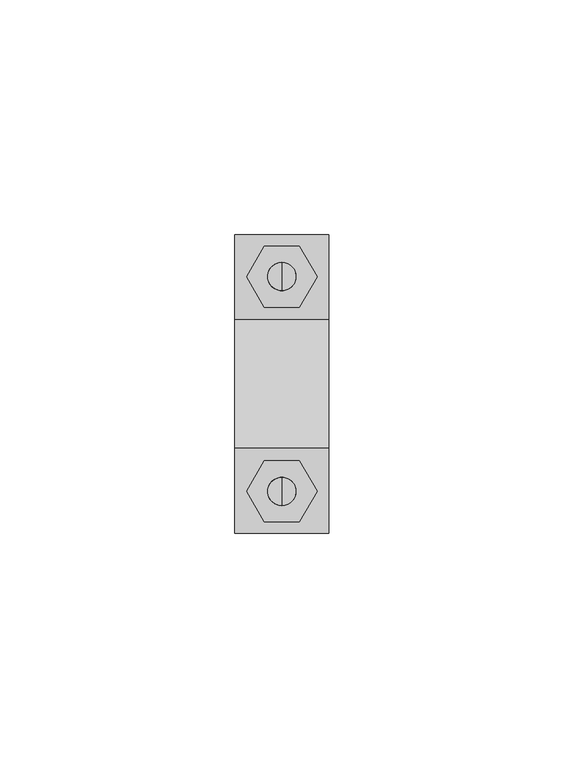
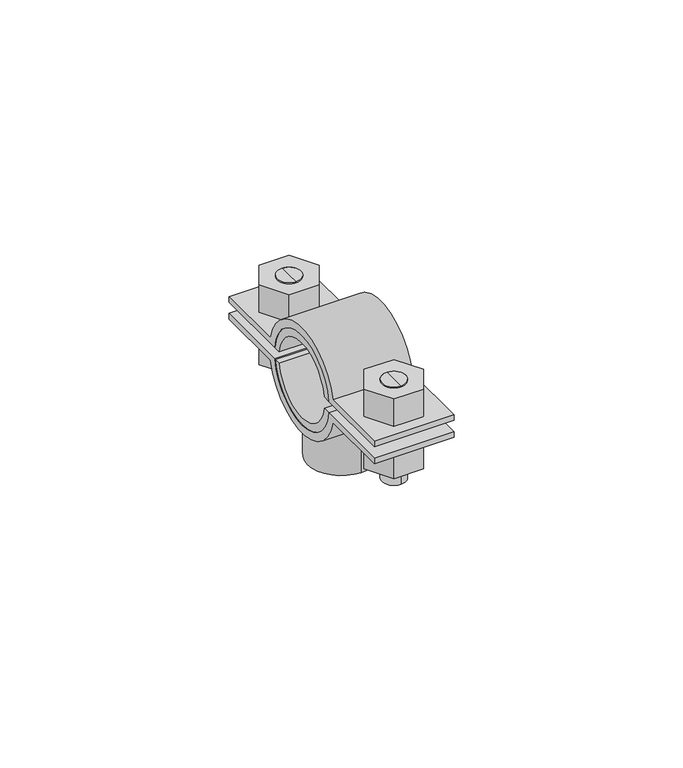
"""IFC4 building model written with IfcOpenShell, lengths in millimetres: valve geometry, Superfix DG2 Clamp (based on pipe) : Superfix DG2 Clamp (based on pipe)."""

from ifc_helpers import new_model, si_unit, point, frame, frame_2d, origin, origin_2d, place, context, project, spatial, polyline, circle_curve, trimmed, segment, composite_curve, outline, extrude, source, transform, mapped, element, save
from ifc_brep_helpers import plane_surface, cylinder_surface, advanced_brep


def valve_8481dcae(model_context):
    return source(origin(), model_context, "Body", "SolidModel", [
        advanced_brep(
        [(0.0, 25.875, 342.9002332), (0.0, 19.875, 342.9002332), (0.0, 19.875, 357.0002332), (0.0, 25.875, 357.0002332), (0.0, 22.875, 342.9002332)],
        [
            (0, 1, circle_curve(frame((0.0, 22.875, 342.9002332), z_axis=(0.0, 0.0, 1.0), x_axis=(0.0, 1.0, 0.0)), 3.0)),
            (1, 2),
            (2, 3, circle_curve(frame((0.0, 22.875, 357.0002332), z_axis=(0.0, 0.0, -1.0), x_axis=(0.0, 1.0, 0.0)), 3.0)),
            (3, 0),
            (1, 0, circle_curve(frame((0.0, 22.875, 342.9002332), z_axis=(0.0, 0.0, 1.0), x_axis=(0.0, 1.0, 0.0)), 3.0)),
            (3, 2, circle_curve(frame((0.0, 22.875, 357.0002332), z_axis=(0.0, 0.0, -1.0), x_axis=(0.0, 1.0, 0.0)), 3.0)),
            (0, 4),
            (4, 1),
        ],
        [
            cylinder_surface(frame((0.0, 22.875, 356.7808426), z_axis=(0.0, 0.0, 1.0), x_axis=(0.0, 1.0, 0.0)), 3.0),
            plane_surface(frame((0.0, 22.875, 342.9002332), z_axis=(0.0, 0.0, -1.0), x_axis=(0.0, 1.0, 0.0))),
            plane_surface(frame((13.75, -31.75, 357.0002332), z_axis=(0.0, 0.0, 1.0), x_axis=(-1.0, 0.0, 0.0))),
        ],
        [
            (0, [[1, 2, 3, 4]]),
            (0, [[5, -4, 6, -2]]),
            (1, [[-1, 7, 8]]),
            (1, [[-5, -8, -7]]),
            (2, [[-3, -6]]),
        ],
    ),
        advanced_brep(
        [(0.0, 19.875, 369.1002332), (0.0, 25.875, 369.1002332), (0.0, 25.875, 360.0002332), (0.0, 19.875, 360.0002332), (0.0, 22.875, 369.1002332)],
        [
            (0, 1, circle_curve(frame((0.0, 22.875, 369.1002332), z_axis=(0.0, 0.0, -1.0), x_axis=(0.0, 1.0, 0.0)), 3.0)),
            (1, 2),
            (2, 3, circle_curve(frame((0.0, 22.875, 360.0002332), z_axis=(0.0, 0.0, 1.0), x_axis=(0.0, 1.0, 0.0)), 3.0)),
            (3, 0),
            (1, 0, circle_curve(frame((0.0, 22.875, 369.1002332), z_axis=(0.0, 0.0, -1.0), x_axis=(0.0, 1.0, 0.0)), 3.0)),
            (3, 2, circle_curve(frame((0.0, 22.875, 360.0002332), z_axis=(0.0, 0.0, 1.0), x_axis=(0.0, 1.0, 0.0)), 3.0)),
            (0, 4),
            (4, 1),
        ],
        [
            cylinder_surface(frame((0.0, 22.875, 356.7808426), z_axis=(0.0, 0.0, 1.0), x_axis=(0.0, 1.0, 0.0)), 3.0),
            plane_surface(frame((0.0, 22.875, 369.1002332), z_axis=(0.0, 0.0, 1.0), x_axis=(0.0, 1.0, 0.0))),
            plane_surface(frame((13.75, 31.75, 360.0002332), z_axis=(0.0, 0.0, -1.0), x_axis=(-1.0, 0.0, 0.0))),
        ],
        [
            (0, [[1, 2, 3, 4]]),
            (0, [[5, -4, 6, -2]]),
            (1, [[-1, 7, 8]]),
            (1, [[-5, -8, -7]]),
            (2, [[-3, -6]]),
        ],
    ),
        advanced_brep(
        [(0.0, -25.875, 369.1002332), (0.0, -19.875, 369.1002332), (0.0, -19.875, 360.0002332), (0.0, -25.875, 360.0002332), (0.0, -22.875, 369.1002332)],
        [
            (0, 1, circle_curve(frame((0.0, -22.875, 369.1002332), z_axis=(0.0, 0.0, -1.0), x_axis=(0.0, -1.0, 0.0)), 3.0)),
            (1, 2),
            (2, 3, circle_curve(frame((0.0, -22.875, 360.0002332), z_axis=(0.0, 0.0, 1.0), x_axis=(0.0, -1.0, 0.0)), 3.0)),
            (3, 0),
            (1, 0, circle_curve(frame((0.0, -22.875, 369.1002332), z_axis=(0.0, 0.0, -1.0), x_axis=(0.0, -1.0, 0.0)), 3.0)),
            (3, 2, circle_curve(frame((0.0, -22.875, 360.0002332), z_axis=(0.0, 0.0, 1.0), x_axis=(0.0, -1.0, 0.0)), 3.0)),
            (0, 4),
            (4, 1),
        ],
        [
            cylinder_surface(frame((0.0, -22.875, 356.7808426), z_axis=(0.0, 0.0, -1.0), x_axis=(0.0, -1.0, 0.0)), 3.0),
            plane_surface(frame((0.0, -22.875, 369.1002332), z_axis=(0.0, 0.0, 1.0), x_axis=(0.0, -1.0, 0.0))),
            plane_surface(frame((13.75, 31.75, 360.0002332), z_axis=(0.0, 0.0, -1.0), x_axis=(-1.0, 0.0, 0.0))),
        ],
        [
            (0, [[1, 2, 3, 4]]),
            (0, [[5, -4, 6, -2]]),
            (1, [[-1, 7, 8]]),
            (1, [[-5, -8, -7]]),
            (2, [[-3, -6]]),
        ],
    ),
        advanced_brep(
        [(0.0, -19.875, 342.9002332), (0.0, -25.875, 342.9002332), (0.0, -25.875, 357.0002332), (0.0, -19.875, 357.0002332), (0.0, -22.875, 342.9002332)],
        [
            (0, 1, circle_curve(frame((0.0, -22.875, 342.9002332), z_axis=(0.0, 0.0, 1.0), x_axis=(0.0, -1.0, 0.0)), 3.0)),
            (1, 2),
            (2, 3, circle_curve(frame((0.0, -22.875, 357.0002332), z_axis=(0.0, 0.0, -1.0), x_axis=(0.0, -1.0, 0.0)), 3.0)),
            (3, 0),
            (1, 0, circle_curve(frame((0.0, -22.875, 342.9002332), z_axis=(0.0, 0.0, 1.0), x_axis=(0.0, -1.0, 0.0)), 3.0)),
            (3, 2, circle_curve(frame((0.0, -22.875, 357.0002332), z_axis=(0.0, 0.0, -1.0), x_axis=(0.0, -1.0, 0.0)), 3.0)),
            (0, 4),
            (4, 1),
        ],
        [
            cylinder_surface(frame((0.0, -22.875, 356.7808426), z_axis=(0.0, 0.0, -1.0), x_axis=(0.0, -1.0, 0.0)), 3.0),
            plane_surface(frame((0.0, -22.875, 342.9002332), z_axis=(0.0, 0.0, -1.0), x_axis=(0.0, -1.0, 0.0))),
            plane_surface(frame((13.75, -31.75, 357.0002332), z_axis=(0.0, 0.0, 1.0), x_axis=(-1.0, 0.0, 0.0))),
        ],
        [
            (0, [[1, 2, 3, 4]]),
            (0, [[5, -4, 6, -2]]),
            (1, [[-1, 7, 8]]),
            (1, [[-5, -8, -7]]),
            (2, [[-3, -6]]),
        ],
    ),
        extrude(outline(composite_curve([segment(trimmed(circle_curve(frame_2d((0.0, 358.5002332)), 12.0), [point((-11.9058809, 357.0002332))], [point((11.9058809, 357.0002332))], True, "CARTESIAN"), True, "CONTINUOUS"), segment(polyline([(11.9058809, 357.0002332), (31.75, 357.0002332), (31.75, 355.5002332), (13.6747943, 355.5002332)]), True, "CONTINUOUS"), segment(trimmed(circle_curve(frame_2d((0.0, 358.5002332)), 14.0), [point((13.6747943, 355.5002332))], [point((-13.6747943, 355.5002332))], False, "CARTESIAN"), True, "CONTINUOUS"), segment(polyline([(-13.6747943, 355.5002332), (-31.75, 355.5002332), (-31.75, 357.0002332), (-11.9058809, 357.0002332)]), True, "CONTINUOUS")], self_intersect=False)), frame((-10.0, 0.0, 0.0), z_axis=(1.0, 0.0, 0.0), x_axis=(0.0, 1.0, 0.0)), (0.0, 0.0, 1.0), 20.0),
        extrude(outline(composite_curve([segment(trimmed(circle_curve(frame_2d((0.0, 358.5002332)), 12.0), [point((11.9058809, 360.0002332))], [point((-11.9058809, 360.0002332))], True, "CARTESIAN"), True, "CONTINUOUS"), segment(polyline([(-11.9058809, 360.0002332), (-31.75, 360.0002332), (-31.75, 361.5002332), (-13.6747943, 361.5002332)]), True, "CONTINUOUS"), segment(trimmed(circle_curve(frame_2d((0.0, 358.5002332)), 14.0), [point((-13.6747943, 361.5002332))], [point((13.6747943, 361.5002332))], False, "CARTESIAN"), True, "CONTINUOUS"), segment(polyline([(13.6747943, 361.5002332), (31.75, 361.5002332), (31.75, 360.0002332), (11.9058809, 360.0002332)]), True, "CONTINUOUS")], self_intersect=False)), frame((-10.0, 0.0, 0.0), z_axis=(1.0, 0.0, 0.0), x_axis=(0.0, 1.0, 0.0)), (0.0, 0.0, 1.0), 20.0),
        extrude(outline(polyline([(7.5055535, -22.875), (3.7527767, -29.375), (-3.7527767, -29.375), (-7.5055535, -22.875), (-3.7527767, -16.375), (3.7527767, -16.375), (7.5055535, -22.875)]), holes=[composite_curve([segment(trimmed(circle_curve(frame_2d((0.0, -22.875)), 3.0), [point((3.0, -22.875))], [point((-3.0, -22.875))], True, "CARTESIAN"), True, "CONTINUOUS"), segment(trimmed(circle_curve(frame_2d((0.0, -22.875)), 3.0), [point((-3.0, -22.875))], [point((3.0, -22.875))], True, "CARTESIAN"), True, "CONTINUOUS")], self_intersect=False)]), frame((0.0, 0.0, 361.5002332), z_axis=(0.0, 0.0, 1.0), x_axis=(1.0, 0.0, 0.0)), (0.0, 0.0, 1.0), 7.6),
        extrude(outline(polyline([(7.5055535, 22.875), (3.7527767, 16.375), (-3.7527767, 16.375), (-7.5055535, 22.875), (-3.7527767, 29.375), (3.7527767, 29.375), (7.5055535, 22.875)]), holes=[composite_curve([segment(trimmed(circle_curve(frame_2d((0.0, 22.875)), 3.0), [point((3.0, 22.875))], [point((-3.0, 22.875))], True, "CARTESIAN"), True, "CONTINUOUS"), segment(trimmed(circle_curve(frame_2d((0.0, 22.875)), 3.0), [point((-3.0, 22.875))], [point((3.0, 22.875))], True, "CARTESIAN"), True, "CONTINUOUS")], self_intersect=False)]), frame((0.0, 0.0, 361.5002332), z_axis=(0.0, 0.0, 1.0), x_axis=(1.0, 0.0, 0.0)), (0.0, 0.0, 1.0), 7.6),
        extrude(outline(polyline([(7.5055535, -22.875), (3.7527767, -29.375), (-3.7527767, -29.375), (-7.5055535, -22.875), (-3.7527767, -16.375), (3.7527767, -16.375), (7.5055535, -22.875)]), holes=[composite_curve([segment(trimmed(circle_curve(frame_2d((0.0, -22.875)), 3.0), [point((3.0, -22.875))], [point((-3.0, -22.875))], True, "CARTESIAN"), True, "CONTINUOUS"), segment(trimmed(circle_curve(frame_2d((0.0, -22.875)), 3.0), [point((-3.0, -22.875))], [point((3.0, -22.875))], True, "CARTESIAN"), True, "CONTINUOUS")], self_intersect=False)]), frame((0.0, 0.0, 347.9002332), z_axis=(0.0, 0.0, 1.0), x_axis=(1.0, 0.0, 0.0)), (0.0, 0.0, 1.0), 7.6),
        extrude(outline(polyline([(7.5055535, 22.875), (3.7527767, 16.375), (-3.7527767, 16.375), (-7.5055535, 22.875), (-3.7527767, 29.375), (3.7527767, 29.375), (7.5055535, 22.875)]), holes=[composite_curve([segment(trimmed(circle_curve(frame_2d((0.0, 22.875)), 3.0), [point((3.0, 22.875))], [point((-3.0, 22.875))], True, "CARTESIAN"), True, "CONTINUOUS"), segment(trimmed(circle_curve(frame_2d((0.0, 22.875)), 3.0), [point((-3.0, 22.875))], [point((3.0, 22.875))], True, "CARTESIAN"), True, "CONTINUOUS")], self_intersect=False)]), frame((0.0, 0.0, 347.9002332), z_axis=(0.0, 0.0, 1.0), x_axis=(1.0, 0.0, 0.0)), (0.0, 0.0, 1.0), 7.6),
        extrude(outline(composite_curve([segment(trimmed(circle_curve(origin_2d(), 8.5), [point((0.0, 8.5))], [point((0.0, -8.5))], False, "CARTESIAN"), True, "CONTINUOUS"), segment(trimmed(circle_curve(origin_2d(), 8.5), [point((0.0, -8.5))], [point((0.0, 8.5))], False, "CARTESIAN"), True, "CONTINUOUS")], self_intersect=False), holes=[composite_curve([segment(trimmed(circle_curve(origin_2d(), 5.0), [point((0.0, 5.0))], [point((0.0, -5.0))], True, "CARTESIAN"), True, "CONTINUOUS"), segment(trimmed(circle_curve(origin_2d(), 5.0), [point((0.0, -5.0))], [point((0.0, 5.0))], True, "CARTESIAN"), True, "CONTINUOUS")], self_intersect=False)]), frame((0.0, 0.0, 335.5002332), z_axis=(0.0, 0.0, 1.0), x_axis=(1.0, 0.0, 0.0)), (0.0, 0.0, 1.0), 11.5),
        extrude(outline(composite_curve([segment(trimmed(circle_curve(frame_2d((0.0, 358.5002332)), 10.0), [point((9.88686, 360.0002332))], [point((-9.88686, 360.0002332))], True, "CARTESIAN"), True, "CONTINUOUS"), segment(polyline([(-9.88686, 360.0002332), (-11.9058809, 360.0002332)]), True, "CONTINUOUS"), segment(trimmed(circle_curve(frame_2d((0.0, 358.5002332)), 12.0), [point((-11.9058809, 360.0002332))], [point((11.9058809, 360.0002332))], False, "CARTESIAN"), True, "CONTINUOUS"), segment(polyline([(11.9058809, 360.0002332), (9.88686, 360.0002332)]), True, "CONTINUOUS")], self_intersect=False)), frame((-10.0, 0.0, 0.0), z_axis=(1.0, 0.0, 0.0), x_axis=(0.0, 1.0, 0.0)), (0.0, 0.0, 1.0), 20.0),
        extrude(outline(composite_curve([segment(polyline([(9.88686, 357.0002332), (11.9058809, 357.0002332)]), True, "CONTINUOUS"), segment(trimmed(circle_curve(frame_2d((0.0, 358.5002332)), 12.0), [point((11.9058809, 357.0002332))], [point((-11.9058809, 357.0002332))], False, "CARTESIAN"), True, "CONTINUOUS"), segment(polyline([(-11.9058809, 357.0002332), (-9.88686, 357.0002332)]), True, "CONTINUOUS"), segment(trimmed(circle_curve(frame_2d((0.0, 358.5002332)), 10.0), [point((-9.88686, 357.0002332))], [point((9.88686, 357.0002332))], True, "CARTESIAN"), True, "CONTINUOUS")], self_intersect=False)), frame((-10.0, 0.0, 0.0), z_axis=(1.0, 0.0, 0.0), x_axis=(0.0, 1.0, 0.0)), (0.0, 0.0, 1.0), 20.0),
    ])


if __name__ == "__main__":
    model = new_model("IFC4")
    model_context = context("Model", 3, world=origin())
    ifc_project = project(units=[si_unit("LENGTHUNIT", "METRE", prefix="MILLI")], contexts=[model_context])
    site = spatial("IfcSite", under=ifc_project)
    building = spatial("IfcBuilding", under=site)
    placement = place(None, origin())
    valve_shape = valve_8481dcae(model_context)
    element("IfcValve", 1, ObjectType="Superfix DG2 Clamp (based on pipe) : Superfix DG2 Clamp (based on pipe)", at=placement, inside=building, context=model_context, shape_type="MappedRepresentation", body=[
        mapped(valve_shape, transform((0.0, 0.0, 0.0), x_axis=(1.0, 0.0, 0.0), y_axis=(0.0, 1.0, 0.0), z_axis=(0.0, 0.0, 1.0))),
    ])
    save(model, "model.ifc")
